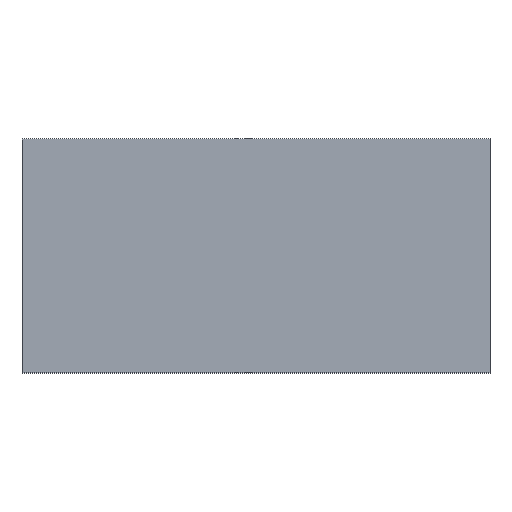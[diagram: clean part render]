
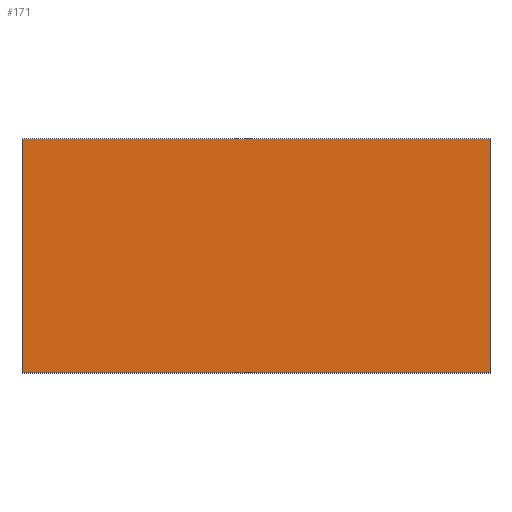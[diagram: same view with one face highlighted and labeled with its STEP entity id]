
A CAD part, top view. The second image highlights one B-rep face of the part: STEP entity #171.
In plain terms, the highlighted planar face has unit normal (0, 0, 1).
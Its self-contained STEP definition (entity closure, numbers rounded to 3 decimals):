
#42 = VERTEX_POINT('',#43);
#43 = CARTESIAN_POINT('',(220.,-110.,1.52));
#49 = EDGE_CURVE('',#42,#50,#52,.T.);
#50 = VERTEX_POINT('',#51);
#51 = CARTESIAN_POINT('',(0.,-110.,1.52));
#52 = LINE('',#53,#54);
#53 = CARTESIAN_POINT('',(220.,-110.,1.52));
#54 = VECTOR('',#55,1.);
#55 = DIRECTION('',(-1.,0.,0.));
#80 = EDGE_CURVE('',#50,#81,#83,.T.);
#81 = VERTEX_POINT('',#82);
#82 = CARTESIAN_POINT('',(0.,0.,1.52));
#83 = LINE('',#84,#85);
#84 = CARTESIAN_POINT('',(0.,-110.,1.52));
#85 = VECTOR('',#86,1.);
#86 = DIRECTION('',(0.,1.,0.));
#111 = EDGE_CURVE('',#81,#112,#114,.T.);
#112 = VERTEX_POINT('',#113);
#113 = CARTESIAN_POINT('',(220.,0.,1.52));
#114 = LINE('',#115,#116);
#115 = CARTESIAN_POINT('',(0.,0.,1.52));
#116 = VECTOR('',#117,1.);
#117 = DIRECTION('',(1.,0.,0.));
#142 = EDGE_CURVE('',#112,#42,#143,.T.);
#143 = LINE('',#144,#145);
#144 = CARTESIAN_POINT('',(220.,0.,1.52));
#145 = VECTOR('',#146,1.);
#146 = DIRECTION('',(0.,-1.,0.));
#171 = ADVANCED_FACE('',(#172),#178,.T.);
#172 = FACE_BOUND('',#173,.F.);
#173 = EDGE_LOOP('',(#174,#175,#176,#177));
#174 = ORIENTED_EDGE('',*,*,#49,.T.);
#175 = ORIENTED_EDGE('',*,*,#80,.T.);
#176 = ORIENTED_EDGE('',*,*,#111,.T.);
#177 = ORIENTED_EDGE('',*,*,#142,.T.);
#178 = PLANE('',#179);
#179 = AXIS2_PLACEMENT_3D('',#180,#181,#182);
#180 = CARTESIAN_POINT('',(0.,0.,1.52));
#181 = DIRECTION('',(0.,0.,1.));
#182 = DIRECTION('',(1.,0.,-0.));
